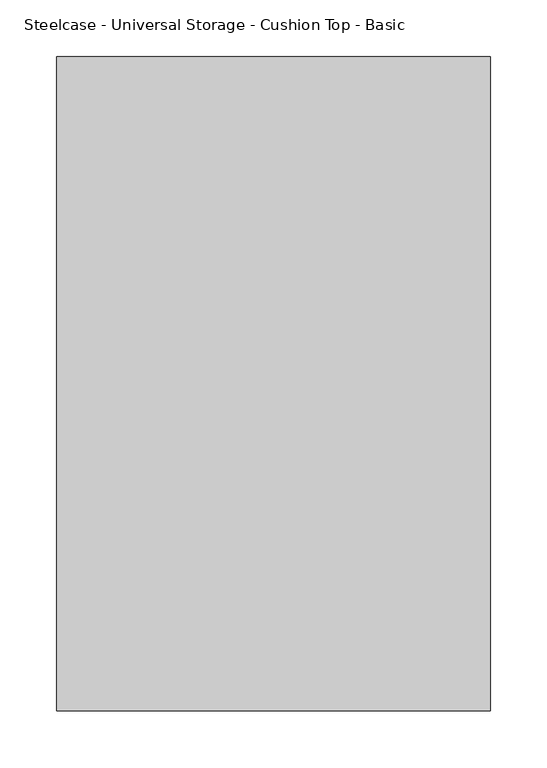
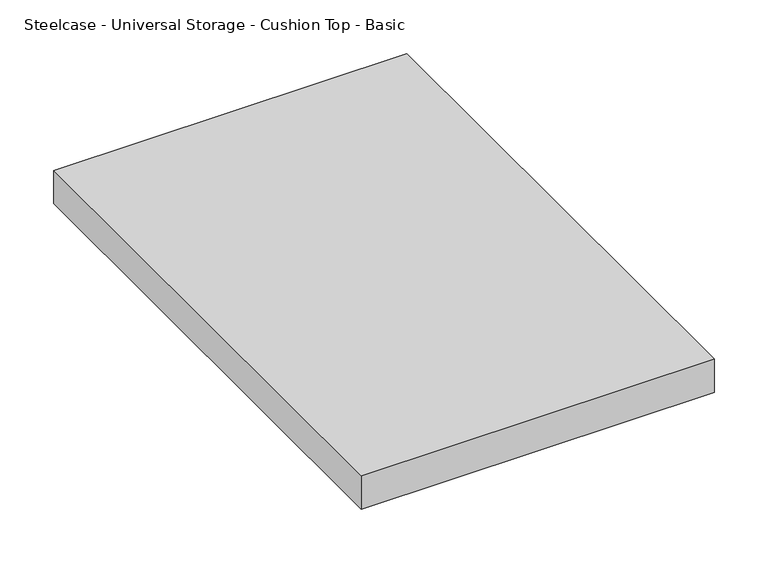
"""IFC4 building model written with IfcOpenShell, lengths in millimetres: furniture geometry, Steelcase - Universal Storage - Cushion Top - Basic : Mobile Pedestal - 23D x 15W."""

from ifc_helpers import new_model, si_unit, frame, origin, place, context, project, spatial, polyline, outline, extrude, source, transform, mapped, element, save


def steelcase_universal_storage_cushion_top_basic_afc7280b(model_context):
    return source(origin(), model_context, "Body", "SweptSolid", [
        extrude(outline(polyline([(381.0, 0.0), (381.0, -574.802), (0.0, -574.802), (0.0, 0.0), (381.0, 0.0)])), frame((0.0, 0.0, 533.4), z_axis=(0.0, 0.0, 1.0), x_axis=(1.0, 0.0, 0.0)), (0.0, 0.0, 1.0), 38.0999971),
    ])


if __name__ == "__main__":
    model = new_model("IFC4")
    model_context = context("Model", 3, world=origin())
    ifc_project = project(units=[si_unit("LENGTHUNIT", "METRE", prefix="MILLI")], contexts=[model_context])
    site = spatial("IfcSite", under=ifc_project)
    building = spatial("IfcBuilding", under=site)
    placement = place(None, origin())
    steelcase_universal_storage_cushion_top_basic_shape = steelcase_universal_storage_cushion_top_basic_afc7280b(model_context)
    element("IfcFurniture", 1, ObjectType="Steelcase - Universal Storage - Cushion Top - Basic : Mobile Pedestal - 23D x 15W", at=placement, inside=building, context=model_context, shape_type="MappedRepresentation", body=[
        mapped(steelcase_universal_storage_cushion_top_basic_shape, transform((0.0, 0.0, 0.0), x_axis=(1.0, 0.0, 0.0), y_axis=(0.0, 1.0, 0.0), z_axis=(0.0, 0.0, 1.0))),
    ])
    save(model, "model.ifc")
